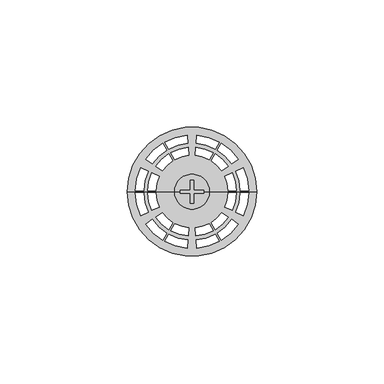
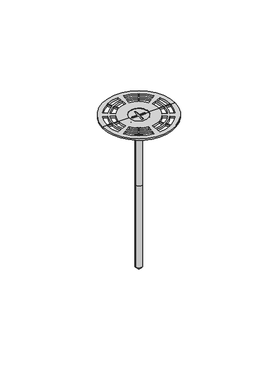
"""IFC4 building model written with IfcOpenShell, lengths in millimetres: proxy geometry, Durabond Generic Model Screw w Standard Wall Plate : Durabond Generic Model Screw w Standard Wall Plate."""

from ifc_helpers import new_model, si_unit, point, frame, origin, place, context, project, spatial, polyline, circle_curve, ellipse_curve, trimmed, source, transform, mapped, element, save
from ifc_brep_helpers import plane_surface, cylinder_surface, revolved_surface, advanced_brep


def generic_models_8c792c9c(model_context):
    return source(origin(), model_context, "Body", "AdvancedBrep", [
        advanced_brep(
        [(6.8713781, 0.0, 0.79375), (-6.8713781, 0.0, 0.79375), (-4.7625, 0.0, 0.79375), (-4.7625, 0.79375, 0.79375), (-0.79375, 0.79375, 0.79375), (-0.79375, 4.7625, 0.79375), (0.79375, 4.7625, 0.79375), (0.79375, 0.79375, 0.79375), (4.7625, 0.79375, 0.79375), (4.7625, 0.0, 0.79375), (4.7625, -0.79375, 0.79375), (0.79375, -0.79375, 0.79375), (0.79375, -4.7625, 0.79375), (-0.79375, -4.7625, 0.79375), (-0.79375, -0.79375, 0.79375), (-4.7625, -0.79375, 0.79375), (6.8713781, 0.0, -1.0661219), (-6.8713781, 0.0, -1.0661219), (2.38125, 0.0, -5.55625), (-2.38125, 0.0, -5.55625), (2.38125, 0.0, -50.00625), (-2.38125, 0.0, -50.00625), (-0.79375, -4.7625, 0.0), (0.79375, -4.7625, 0.0), (0.79375, -0.79375, 0.0), (4.7625, -0.79375, 0.0), (4.7625, 0.79375, 0.0), (0.79375, 0.79375, 0.0), (0.79375, 4.7625, 0.0), (-0.79375, 4.7625, 0.0), (-0.79375, 0.79375, 0.0), (-4.7625, 0.79375, 0.0), (-4.7625, -0.79375, 0.0), (-0.79375, -0.79375, 0.0), (0.0, 0.0, -50.00625)],
        [
            (0, 1, circle_curve(frame((0.0, 0.0, 0.79375), z_axis=(0.0, 0.0, 1.0), x_axis=(-1.0, 0.0, 0.0)), 6.8713781)),
            (1, 2),
            (2, 3),
            (3, 4),
            (4, 5),
            (5, 6),
            (6, 7),
            (7, 8),
            (8, 9),
            (9, 0),
            (1, 0, circle_curve(frame((0.0, 0.0, 0.79375), z_axis=(0.0, 0.0, 1.0), x_axis=(-1.0, 0.0, 0.0)), 6.8713781)),
            (9, 10),
            (10, 11),
            (11, 12),
            (12, 13),
            (13, 14),
            (14, 15),
            (15, 2),
            (0, 16),
            (16, 17, circle_curve(frame((0.0, 0.0, -1.0661219), z_axis=(0.0, 0.0, 1.0), x_axis=(-1.0, 0.0, 0.0)), 6.8713781)),
            (17, 1),
            (17, 16, circle_curve(frame((0.0, 0.0, -1.0661219), z_axis=(0.0, 0.0, 1.0), x_axis=(-1.0, 0.0, 0.0)), 6.8713781)),
            (16, 18),
            (18, 19, circle_curve(frame((0.0, 0.0, -5.55625), z_axis=(0.0, 0.0, 1.0), x_axis=(-1.0, 0.0, 0.0)), 2.38125)),
            (19, 17),
            (19, 18, circle_curve(frame((0.0, 0.0, -5.55625), z_axis=(0.0, 0.0, 1.0), x_axis=(-1.0, 0.0, 0.0)), 2.38125)),
            (18, 20),
            (20, 21, circle_curve(frame((0.0, 0.0, -50.00625), z_axis=(0.0, 0.0, 1.0), x_axis=(-1.0, 0.0, 0.0)), 2.38125)),
            (21, 19),
            (21, 20, circle_curve(frame((0.0, 0.0, -50.00625), z_axis=(0.0, 0.0, 1.0), x_axis=(-1.0, 0.0, 0.0)), 2.38125)),
            (22, 23),
            (23, 24),
            (24, 25),
            (25, 26),
            (26, 27),
            (27, 28),
            (28, 29),
            (29, 30),
            (30, 31),
            (31, 32),
            (32, 33),
            (33, 22),
            (22, 13),
            (12, 23),
            (11, 24),
            (10, 25),
            (8, 26),
            (7, 27),
            (6, 28),
            (5, 29),
            (4, 30),
            (3, 31),
            (15, 32),
            (14, 33),
            (20, 34),
            (34, 21),
        ],
        [
            plane_surface(frame((0.0, 0.0, 0.79375), z_axis=(0.0, 0.0, 1.0), x_axis=(-1.0, 0.0, 0.0))),
            cylinder_surface(frame((0.0, 0.0, 64.29375), z_axis=(0.0, 0.0, -1.0), x_axis=(-1.0, 0.0, 0.0)), 6.8713781),
            revolved_surface(polyline([(-6.8713781, 0.0, -1.0661219), (-2.38125, 0.0, -5.55625)]), (0.0, 0.0, 64.29375), (0.0, 0.0, -1.0)),
            cylinder_surface(frame((0.0, 0.0, 64.29375), z_axis=(0.0, 0.0, -1.0), x_axis=(-1.0, 0.0, 0.0)), 2.38125),
            plane_surface(frame((6.8713781, -4.7625, 0.0), z_axis=(0.0, 0.0, 1.0), x_axis=(-1.0, 0.0, 0.0))),
            plane_surface(frame((-0.79375, -4.7625, 0.79375), z_axis=(0.0, 1.0, 0.0), x_axis=(0.0, 0.0, -1.0))),
            plane_surface(frame((0.79375, -4.7625, 0.79375), z_axis=(-1.0, 0.0, 0.0), x_axis=(0.0, 0.0, -1.0))),
            plane_surface(frame((0.79375, -0.79375, 0.79375), z_axis=(0.0, 1.0, 0.0), x_axis=(0.0, 0.0, -1.0))),
            plane_surface(frame((4.7625, -0.79375, 0.79375), z_axis=(-1.0, 0.0, 0.0), x_axis=(0.0, 0.0, -1.0))),
            plane_surface(frame((4.7625, 0.79375, 0.79375), z_axis=(0.0, -1.0, 0.0), x_axis=(0.0, 0.0, -1.0))),
            plane_surface(frame((0.79375, 0.79375, 0.79375), z_axis=(-1.0, 0.0, 0.0), x_axis=(0.0, 0.0, -1.0))),
            plane_surface(frame((0.79375, 4.7625, 0.79375), z_axis=(0.0, -1.0, 0.0), x_axis=(0.0, 0.0, -1.0))),
            plane_surface(frame((-0.79375, 4.7625, 0.79375), z_axis=(1.0, 0.0, 0.0), x_axis=(0.0, 0.0, -1.0))),
            plane_surface(frame((-0.79375, 0.79375, 0.79375), z_axis=(0.0, -1.0, 0.0), x_axis=(0.0, 0.0, -1.0))),
            plane_surface(frame((-4.7625, 0.79375, 0.79375), z_axis=(1.0, 0.0, 0.0), x_axis=(0.0, 0.0, -1.0))),
            plane_surface(frame((-4.7625, -0.79375, 0.79375), z_axis=(0.0, 1.0, 0.0), x_axis=(0.0, 0.0, -1.0))),
            plane_surface(frame((-0.79375, -0.79375, 0.79375), z_axis=(1.0, 0.0, 0.0), x_axis=(0.0, 0.0, -1.0))),
            plane_surface(frame((0.0, 0.0, -50.00625), z_axis=(0.0, 0.0, -1.0), x_axis=(-1.0, 0.0, 0.0))),
        ],
        [
            (0, [[1, 2, 3, 4, 5, 6, 7, 8, 9, 10]]),
            (0, [[11, -10, 12, 13, 14, 15, 16, 17, 18, -2]]),
            (1, [[-1, 19, 20, 21]]),
            (1, [[-11, -21, 22, -19]]),
            (2, [[-20, 23, 24, 25]]),
            (2, [[-22, -25, 26, -23]]),
            (3, [[-24, 27, 28, 29]]),
            (3, [[-26, -29, 30, -27]]),
            (4, [[31, 32, 33, 34, 35, 36, 37, 38, 39, 40, 41, 42]]),
            (5, [[-31, 43, -15, 44]]),
            (6, [[-32, -44, -14, 45]]),
            (7, [[-33, -45, -13, 46]]),
            (8, [[-34, -46, -12, -9, 47]]),
            (9, [[-35, -47, -8, 48]]),
            (10, [[-36, -48, -7, 49]]),
            (11, [[-37, -49, -6, 50]]),
            (12, [[-38, -50, -5, 51]]),
            (13, [[-39, -51, -4, 52]]),
            (14, [[-40, -52, -3, -18, 53]]),
            (15, [[-41, -53, -17, 54]]),
            (16, [[-42, -54, -16, -43]]),
            (17, [[-28, 55, 56]]),
            (17, [[-30, -56, -55]]),
        ],
    ),
        advanced_brep(
        [(0.0, 0.0, -113.50625), (-2.38125, 0.0, -111.125), (2.38125, 0.0, -111.125), (-2.38125, 0.0, -50.00625), (2.38125, 0.0, -50.00625), (0.0, 0.0, -50.00625)],
        [
            (0, 1),
            (1, 2, circle_curve(frame((0.0, 0.0, -111.125), z_axis=(0.0, 0.0, -1.0), x_axis=(-1.0, 0.0, 0.0)), 2.38125)),
            (2, 0),
            (2, 1, circle_curve(frame((0.0, 0.0, -111.125), z_axis=(0.0, 0.0, -1.0), x_axis=(-1.0, 0.0, 0.0)), 2.38125)),
            (1, 3),
            (3, 4, circle_curve(frame((0.0, 0.0, -50.00625), z_axis=(0.0, 0.0, -1.0), x_axis=(-1.0, 0.0, 0.0)), 2.38125)),
            (4, 2),
            (4, 3, circle_curve(frame((0.0, 0.0, -50.00625), z_axis=(0.0, 0.0, -1.0), x_axis=(-1.0, 0.0, 0.0)), 2.38125)),
            (3, 5),
            (5, 4),
        ],
        [
            revolved_surface(polyline([(-2.38125, 0.0, -111.125), (0.0, 0.0, -113.50625)]), (0.0, 0.0, 64.29375), (0.0, 0.0, -1.0)),
            cylinder_surface(frame((0.0, 0.0, 64.29375), z_axis=(0.0, 0.0, -1.0), x_axis=(-1.0, 0.0, 0.0)), 2.38125),
            plane_surface(frame((0.0, 0.0, -50.00625), z_axis=(0.0, 0.0, 1.0), x_axis=(-1.0, 0.0, 0.0))),
        ],
        [
            (0, [[1, 2, 3]]),
            (0, [[-3, 4, -1]]),
            (1, [[-2, 5, 6, 7]]),
            (1, [[-4, -7, 8, -5]]),
            (2, [[-6, 9, 10]]),
            (2, [[-8, -10, -9]]),
        ],
    ),
        advanced_brep(
        [(6.8713781, 0.0, 1.190625), (-6.8713781, 0.0, 1.190625), (-6.8713781, 0.0, -1.0661219), (6.8713781, 0.0, -1.0661219), (25.4, 0.0, 1.190625), (-25.4, 0.0, 1.190625), (-20.1426906, 9.3926909, 1.190625), (-17.2651633, 8.0508779, 1.190625), (-19.0458654, 0.396875, 1.190625), (-22.2214562, 0.396875, 1.190625), (-15.8263997, 7.3799714, 1.190625), (-12.9488725, 6.0381584, 1.190625), (-14.2819868, 0.396875, 1.190625), (-17.4579895, 0.396875, 1.190625), (20.1426906, 9.3926909, 1.190625), (22.2214562, 0.396875, 1.190625), (19.0458654, 0.396875, 1.190625), (17.2651633, 8.0508779, 1.190625), (15.8263997, 7.3799714, 1.190625), (17.4579895, 0.396875, 1.190625), (14.2819868, 0.396875, 1.190625), (12.9488725, 6.0381584, 1.190625), (-1.9370364, 22.1404272, 1.190625), (-1.6603169, 18.977509, 1.190625), (-9.1792289, 16.6926408, 1.190625), (-10.7670243, 19.4427831, 1.190625), (-1.5219572, 17.3960499, 1.190625), (-1.2452377, 14.2331317, 1.190625), (-6.7972896, 12.5670009, 1.190625), (-8.3852909, 15.3174999, 1.190625), (-18.2056542, 12.7477363, 1.190625), (-11.4544319, 19.0459081, 1.190625), (-9.8666366, 16.2957658, 1.190625), (-15.6048464, 10.9266311, 1.190625), (-14.3044426, 10.0160785, 1.190625), (-9.0726986, 14.9206249, 1.190625), (-7.4846972, 12.1701259, 1.190625), (-11.7036348, 8.1949733, 1.190625), (1.9370364, 22.1404272, 1.190625), (10.7670243, 19.4427831, 1.190625), (9.1792289, 16.6926408, 1.190625), (1.6603169, 18.977509, 1.190625), (1.5219572, 17.3960499, 1.190625), (8.3852909, 15.3174999, 1.190625), (6.7972896, 12.5670009, 1.190625), (1.2452377, 14.2331317, 1.190625), (18.2056542, 12.7477363, 1.190625), (15.6048464, 10.9266311, 1.190625), (9.8666366, 16.2957658, 1.190625), (11.4544319, 19.0459081, 1.190625), (14.3044426, 10.0160785, 1.190625), (11.7036348, 8.1949733, 1.190625), (7.4846972, 12.1701259, 1.190625), (9.0726986, 14.9206249, 1.190625), (-20.1426906, -9.3926909, 1.190625), (-22.2214562, -0.396875, 1.190625), (-19.0458654, -0.396875, 1.190625), (-17.2651633, -8.0508779, 1.190625), (-15.8263997, -7.3799714, 1.190625), (-17.4579895, -0.396875, 1.190625), (-14.2819868, -0.396875, 1.190625), (-12.9488725, -6.0381584, 1.190625), (20.1426906, -9.3926909, 1.190625), (17.2651633, -8.0508779, 1.190625), (19.0458654, -0.396875, 1.190625), (22.2214562, -0.396875, 1.190625), (15.8263997, -7.3799714, 1.190625), (12.9488725, -6.0381584, 1.190625), (14.2819868, -0.396875, 1.190625), (17.4579895, -0.396875, 1.190625), (18.2056542, -12.7477363, 1.190625), (11.4544319, -19.0459081, 1.190625), (9.8666366, -16.2957658, 1.190625), (15.6048464, -10.9266311, 1.190625), (14.3044426, -10.0160785, 1.190625), (9.0726986, -14.9206249, 1.190625), (7.4846972, -12.1701259, 1.190625), (11.7036348, -8.1949733, 1.190625), (1.9370364, -22.1404272, 1.190625), (1.6603169, -18.977509, 1.190625), (9.1792289, -16.6926408, 1.190625), (10.7670243, -19.4427831, 1.190625), (1.5219572, -17.3960499, 1.190625), (1.2452377, -14.2331317, 1.190625), (6.7972896, -12.5670009, 1.190625), (8.3852909, -15.3174999, 1.190625), (-18.2056542, -12.7477363, 1.190625), (-15.6048464, -10.9266311, 1.190625), (-9.8666366, -16.2957658, 1.190625), (-11.4544319, -19.0459081, 1.190625), (-14.3044426, -10.0160785, 1.190625), (-11.7036348, -8.1949733, 1.190625), (-7.4846972, -12.1701259, 1.190625), (-9.0726986, -14.9206249, 1.190625), (-1.9370364, -22.1404272, 1.190625), (-10.7670243, -19.4427831, 1.190625), (-9.1792289, -16.6926408, 1.190625), (-1.6603169, -18.977509, 1.190625), (-1.5219572, -17.3960499, 1.190625), (-8.3852909, -15.3174999, 1.190625), (-6.7972896, -12.5670009, 1.190625), (-1.2452377, -14.2331317, 1.190625), (25.4, 0.0, 0.0), (-25.4, 0.0, 0.0), (13.9306805, 0.0, 0.0), (-13.9306805, 0.0, 0.0), (-17.2651633, 8.0508779, 0.0), (-20.1426906, 9.3926909, 0.0), (-22.2214562, 0.396875, 0.0), (-19.0458654, 0.396875, 0.0), (-12.9488725, 6.0381584, 0.0), (-15.8263997, 7.3799714, 0.0), (-17.4579895, 0.396875, 0.0), (-14.2819868, 0.396875, 0.0), (22.2214562, 0.396875, 0.0), (20.1426906, 9.3926909, 0.0), (17.2651633, 8.0508779, 0.0), (19.0458654, 0.396875, 0.0), (17.4579895, 0.396875, 0.0), (15.8263997, 7.3799714, 0.0), (12.9488725, 6.0381584, 0.0), (14.2819868, 0.396875, 0.0), (-1.6603169, 18.977509, 0.0), (-1.9370364, 22.1404272, 0.0), (-10.7670243, 19.4427831, 0.0), (-9.1792289, 16.6926408, 0.0), (-1.2452377, 14.2331317, 0.0), (-1.5219572, 17.3960499, 0.0), (-8.3852909, 15.3174999, 0.0), (-6.7972896, 12.5670009, 0.0), (-11.4544319, 19.0459081, 0.0), (-18.2056542, 12.7477363, 0.0), (-15.6048464, 10.9266311, 0.0), (-9.8666366, 16.2957658, 0.0), (-9.0726986, 14.9206249, 0.0), (-14.3044426, 10.0160785, 0.0), (-11.7036348, 8.1949733, 0.0), (-7.4846972, 12.1701259, 0.0), (10.7670243, 19.4427831, 0.0), (1.9370364, 22.1404272, 0.0), (1.6603169, 18.977509, 0.0), (9.1792289, 16.6926408, 0.0), (8.3852909, 15.3174999, 0.0), (1.5219572, 17.3960499, 0.0), (1.2452377, 14.2331317, 0.0), (6.7972896, 12.5670009, 0.0), (15.6048464, 10.9266311, 0.0), (18.2056542, 12.7477363, 0.0), (11.4544319, 19.0459081, 0.0), (9.8666366, 16.2957658, 0.0), (11.7036348, 8.1949733, 0.0), (14.3044426, 10.0160785, 0.0), (9.0726986, 14.9206249, 0.0), (7.4846972, 12.1701259, 0.0), (-22.2214562, -0.396875, 0.0), (-20.1426906, -9.3926909, 0.0), (-17.2651633, -8.0508779, 0.0), (-19.0458654, -0.396875, 0.0), (-17.4579895, -0.396875, 0.0), (-15.8263997, -7.3799714, 0.0), (-12.9488725, -6.0381584, 0.0), (-14.2819868, -0.396875, 0.0), (17.2651633, -8.0508779, 0.0), (20.1426906, -9.3926909, 0.0), (22.2214562, -0.396875, 0.0), (19.0458654, -0.396875, 0.0), (12.9488725, -6.0381584, 0.0), (15.8263997, -7.3799714, 0.0), (17.4579895, -0.396875, 0.0), (14.2819868, -0.396875, 0.0), (11.4544319, -19.0459081, 0.0), (18.2056542, -12.7477363, 0.0), (15.6048464, -10.9266311, 0.0), (9.8666366, -16.2957658, 0.0), (9.0726986, -14.9206249, 0.0), (14.3044426, -10.0160785, 0.0), (11.7036348, -8.1949733, 0.0), (7.4846972, -12.1701259, 0.0), (1.6603169, -18.977509, 0.0), (1.9370364, -22.1404272, 0.0), (10.7670243, -19.4427831, 0.0), (9.1792289, -16.6926408, 0.0), (1.2452377, -14.2331317, 0.0), (1.5219572, -17.3960499, 0.0), (8.3852909, -15.3174999, 0.0), (6.7972896, -12.5670009, 0.0), (-15.6048464, -10.9266311, 0.0), (-18.2056542, -12.7477363, 0.0), (-11.4544319, -19.0459081, 0.0), (-9.8666366, -16.2957658, 0.0), (-11.7036348, -8.1949733, 0.0), (-14.3044426, -10.0160785, 0.0), (-9.0726986, -14.9206249, 0.0), (-7.4846972, -12.1701259, 0.0), (-10.7670243, -19.4427831, 0.0), (-1.9370364, -22.1404272, 0.0), (-1.6603169, -18.977509, 0.0), (-9.1792289, -16.6926408, 0.0), (-8.3852909, -15.3174999, 0.0), (-1.5219572, -17.3960499, 0.0), (-1.2452377, -14.2331317, 0.0), (-6.7972896, -12.5670009, 0.0), (8.4746148, 0.0, -6.2461508), (-8.4746148, 0.0, -6.2461508), (-9.3350004, 0.0, -3.4087638), (9.3350004, 0.0, -3.4087638), (2.38125, 0.0, -12.3395156), (-2.38125, 0.0, -12.3395156), (2.38125, 0.0, -5.55625), (-2.38125, 0.0, -5.55625)],
        [
            (0, 1, circle_curve(frame((0.0, 0.0, 1.190625), z_axis=(0.0, 0.0, 1.0), x_axis=(-1.0, 0.0, 0.0)), 6.8713781)),
            (1, 2),
            (2, 3, circle_curve(frame((0.0, 0.0, -1.0661219), z_axis=(0.0, 0.0, -1.0), x_axis=(-1.0, 0.0, 0.0)), 6.8713781)),
            (3, 0),
            (1, 0, circle_curve(frame((0.0, 0.0, 1.190625), z_axis=(0.0, 0.0, 1.0), x_axis=(-1.0, 0.0, 0.0)), 6.8713781)),
            (3, 2, circle_curve(frame((0.0, 0.0, -1.0661219), z_axis=(0.0, 0.0, -1.0), x_axis=(-1.0, 0.0, 0.0)), 6.8713781)),
            (0, 4),
            (4, 5, circle_curve(frame((0.0, 0.0, 1.190625), z_axis=(0.0, 0.0, 1.0), x_axis=(-1.0, 0.0, 0.0)), 25.4)),
            (5, 1),
            (6, 7),
            (7, 8, circle_curve(frame((0.0, 0.0, 1.190625), z_axis=(0.0, 0.0, 1.0), x_axis=(0.0, -1.0, 0.0)), 19.05)),
            (8, 9),
            (9, 6, circle_curve(frame((0.0, 0.0, 1.190625), z_axis=(0.0, 0.0, -1.0), x_axis=(0.0, -1.0, 0.0)), 22.225)),
            (10, 11),
            (11, 12, circle_curve(frame((0.0, 0.0, 1.190625), z_axis=(0.0, 0.0, 1.0), x_axis=(0.0, -1.0, 0.0)), 14.2875)),
            (12, 13),
            (13, 10, circle_curve(frame((0.0, 0.0, 1.190625), z_axis=(0.0, 0.0, -1.0), x_axis=(0.0, -1.0, 0.0)), 17.4625)),
            (14, 15, circle_curve(frame((0.0, 0.0, 1.190625), z_axis=(0.0, 0.0, -1.0), x_axis=(0.0, -1.0, 0.0)), 22.225)),
            (15, 16),
            (16, 17, circle_curve(frame((0.0, 0.0, 1.190625), z_axis=(0.0, 0.0, 1.0), x_axis=(0.0, -1.0, 0.0)), 19.05)),
            (17, 14),
            (18, 19, circle_curve(frame((0.0, 0.0, 1.190625), z_axis=(0.0, 0.0, -1.0), x_axis=(0.0, -1.0, 0.0)), 17.4625)),
            (19, 20),
            (20, 21, circle_curve(frame((0.0, 0.0, 1.190625), z_axis=(0.0, 0.0, 1.0), x_axis=(0.0, -1.0, 0.0)), 14.2875)),
            (21, 18),
            (22, 23),
            (23, 24, circle_curve(frame((0.0, 0.0, 1.190625), z_axis=(0.0, 0.0, 1.0), x_axis=(-0.8660254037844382, -0.5000000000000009, 0.0)), 19.05)),
            (24, 25),
            (25, 22, circle_curve(frame((0.0, 0.0, 1.190625), z_axis=(0.0, 0.0, -1.0), x_axis=(-0.8660254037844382, -0.5000000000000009, 0.0)), 22.225)),
            (26, 27),
            (27, 28, circle_curve(frame((0.0, 0.0, 1.190625), z_axis=(0.0, 0.0, 1.0), x_axis=(-0.8660254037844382, -0.5000000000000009, 0.0)), 14.2875)),
            (28, 29),
            (29, 26, circle_curve(frame((0.0, 0.0, 1.190625), z_axis=(0.0, 0.0, -1.0), x_axis=(-0.8660254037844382, -0.5000000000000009, 0.0)), 17.4625)),
            (30, 31, circle_curve(frame((0.0, 0.0, 1.190625), z_axis=(0.0, 0.0, -1.0), x_axis=(0.8660254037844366, 0.5000000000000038, 0.0)), 22.225)),
            (31, 32),
            (32, 33, circle_curve(frame((0.0, 0.0, 1.190625), z_axis=(0.0, 0.0, 1.0), x_axis=(0.8660254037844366, 0.5000000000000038, 0.0)), 19.05)),
            (33, 30),
            (34, 35, circle_curve(frame((0.0, 0.0, 1.190625), z_axis=(0.0, 0.0, -1.0), x_axis=(0.8660254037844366, 0.5000000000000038, 0.0)), 17.4625)),
            (35, 36),
            (36, 37, circle_curve(frame((0.0, 0.0, 1.190625), z_axis=(0.0, 0.0, 1.0), x_axis=(0.8660254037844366, 0.5000000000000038, 0.0)), 14.2875)),
            (37, 34),
            (38, 39, circle_curve(frame((0.0, 0.0, 1.190625), z_axis=(0.0, 0.0, -1.0), x_axis=(0.8660254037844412, -0.4999999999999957, 0.0)), 22.225)),
            (39, 40),
            (40, 41, circle_curve(frame((0.0, 0.0, 1.190625), z_axis=(0.0, 0.0, 1.0), x_axis=(0.8660254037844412, -0.4999999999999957, 0.0)), 19.05)),
            (41, 38),
            (42, 43, circle_curve(frame((0.0, 0.0, 1.190625), z_axis=(0.0, 0.0, -1.0), x_axis=(0.8660254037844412, -0.4999999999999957, 0.0)), 17.4625)),
            (43, 44),
            (44, 45, circle_curve(frame((0.0, 0.0, 1.190625), z_axis=(0.0, 0.0, 1.0), x_axis=(0.8660254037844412, -0.4999999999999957, 0.0)), 14.2875)),
            (45, 42),
            (46, 47),
            (47, 48, circle_curve(frame((0.0, 0.0, 1.190625), z_axis=(0.0, 0.0, 1.0), x_axis=(-0.8660254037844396, 0.49999999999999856, 0.0)), 19.05)),
            (48, 49),
            (49, 46, circle_curve(frame((0.0, 0.0, 1.190625), z_axis=(0.0, 0.0, -1.0), x_axis=(-0.8660254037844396, 0.49999999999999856, 0.0)), 22.225)),
            (50, 51),
            (51, 52, circle_curve(frame((0.0, 0.0, 1.190625), z_axis=(0.0, 0.0, 1.0), x_axis=(-0.8660254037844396, 0.49999999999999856, 0.0)), 14.2875)),
            (52, 53),
            (53, 50, circle_curve(frame((0.0, 0.0, 1.190625), z_axis=(0.0, 0.0, -1.0), x_axis=(-0.8660254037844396, 0.49999999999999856, 0.0)), 17.4625)),
            (5, 4, circle_curve(frame((0.0, 0.0, 1.190625), z_axis=(0.0, 0.0, 1.0), x_axis=(-1.0, 0.0, 0.0)), 25.4)),
            (54, 55, circle_curve(frame((0.0, 0.0, 1.190625), z_axis=(0.0, 0.0, -1.0), x_axis=(0.0, 1.0, 0.0)), 22.225)),
            (55, 56),
            (56, 57, circle_curve(frame((0.0, 0.0, 1.190625), z_axis=(0.0, 0.0, 1.0), x_axis=(0.0, 1.0, 0.0)), 19.05)),
            (57, 54),
            (58, 59, circle_curve(frame((0.0, 0.0, 1.190625), z_axis=(0.0, 0.0, -1.0), x_axis=(0.0, 1.0, 0.0)), 17.4625)),
            (59, 60),
            (60, 61, circle_curve(frame((0.0, 0.0, 1.190625), z_axis=(0.0, 0.0, 1.0), x_axis=(0.0, 1.0, 0.0)), 14.2875)),
            (61, 58),
            (62, 63),
            (63, 64, circle_curve(frame((0.0, 0.0, 1.190625), z_axis=(0.0, 0.0, 1.0), x_axis=(0.0, 1.0, 0.0)), 19.05)),
            (64, 65),
            (65, 62, circle_curve(frame((0.0, 0.0, 1.190625), z_axis=(0.0, 0.0, -1.0), x_axis=(0.0, 1.0, 0.0)), 22.225)),
            (66, 67),
            (67, 68, circle_curve(frame((0.0, 0.0, 1.190625), z_axis=(0.0, 0.0, 1.0), x_axis=(0.0, 1.0, 0.0)), 14.2875)),
            (68, 69),
            (69, 66, circle_curve(frame((0.0, 0.0, 1.190625), z_axis=(0.0, 0.0, -1.0), x_axis=(0.0, 1.0, 0.0)), 17.4625)),
            (70, 71, circle_curve(frame((0.0, 0.0, 1.190625), z_axis=(0.0, 0.0, -1.0), x_axis=(-0.8660254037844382, -0.5000000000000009, 0.0)), 22.225)),
            (71, 72),
            (72, 73, circle_curve(frame((0.0, 0.0, 1.190625), z_axis=(0.0, 0.0, 1.0), x_axis=(-0.8660254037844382, -0.5000000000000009, 0.0)), 19.05)),
            (73, 70),
            (74, 75, circle_curve(frame((0.0, 0.0, 1.190625), z_axis=(0.0, 0.0, -1.0), x_axis=(-0.8660254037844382, -0.5000000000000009, 0.0)), 17.4625)),
            (75, 76),
            (76, 77, circle_curve(frame((0.0, 0.0, 1.190625), z_axis=(0.0, 0.0, 1.0), x_axis=(-0.8660254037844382, -0.5000000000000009, 0.0)), 14.2875)),
            (77, 74),
            (78, 79),
            (79, 80, circle_curve(frame((0.0, 0.0, 1.190625), z_axis=(0.0, 0.0, 1.0), x_axis=(0.8660254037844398, 0.4999999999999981, 0.0)), 19.05)),
            (80, 81),
            (81, 78, circle_curve(frame((0.0, 0.0, 1.190625), z_axis=(0.0, 0.0, -1.0), x_axis=(0.8660254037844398, 0.4999999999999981, 0.0)), 22.225)),
            (82, 83),
            (83, 84, circle_curve(frame((0.0, 0.0, 1.190625), z_axis=(0.0, 0.0, 1.0), x_axis=(0.8660254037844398, 0.4999999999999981, 0.0)), 14.2875)),
            (84, 85),
            (85, 82, circle_curve(frame((0.0, 0.0, 1.190625), z_axis=(0.0, 0.0, -1.0), x_axis=(0.8660254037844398, 0.4999999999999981, 0.0)), 17.4625)),
            (86, 87),
            (87, 88, circle_curve(frame((0.0, 0.0, 1.190625), z_axis=(0.0, 0.0, 1.0), x_axis=(0.8660254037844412, -0.4999999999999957, 0.0)), 19.05)),
            (88, 89),
            (89, 86, circle_curve(frame((0.0, 0.0, 1.190625), z_axis=(0.0, 0.0, -1.0), x_axis=(0.8660254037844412, -0.4999999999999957, 0.0)), 22.225)),
            (90, 91),
            (91, 92, circle_curve(frame((0.0, 0.0, 1.190625), z_axis=(0.0, 0.0, 1.0), x_axis=(0.8660254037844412, -0.4999999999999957, 0.0)), 14.2875)),
            (92, 93),
            (93, 90, circle_curve(frame((0.0, 0.0, 1.190625), z_axis=(0.0, 0.0, -1.0), x_axis=(0.8660254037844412, -0.4999999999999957, 0.0)), 17.4625)),
            (94, 95, circle_curve(frame((0.0, 0.0, 1.190625), z_axis=(0.0, 0.0, -1.0), x_axis=(-0.8660254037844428, 0.49999999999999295, 0.0)), 22.225)),
            (95, 96),
            (96, 97, circle_curve(frame((0.0, 0.0, 1.190625), z_axis=(0.0, 0.0, 1.0), x_axis=(-0.8660254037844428, 0.49999999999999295, 0.0)), 19.05)),
            (97, 94),
            (98, 99, circle_curve(frame((0.0, 0.0, 1.190625), z_axis=(0.0, 0.0, -1.0), x_axis=(-0.8660254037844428, 0.49999999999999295, 0.0)), 17.4625)),
            (99, 100),
            (100, 101, circle_curve(frame((0.0, 0.0, 1.190625), z_axis=(0.0, 0.0, 1.0), x_axis=(-0.8660254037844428, 0.49999999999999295, 0.0)), 14.2875)),
            (101, 98),
            (4, 102),
            (102, 103, circle_curve(frame((0.0, 0.0, 0.0), z_axis=(0.0, 0.0, 1.0), x_axis=(-1.0, 0.0, 0.0)), 25.4)),
            (103, 5),
            (103, 102, circle_curve(frame((0.0, 0.0, 0.0), z_axis=(0.0, 0.0, 1.0), x_axis=(-1.0, 0.0, 0.0)), 25.4)),
            (102, 104),
            (104, 105, circle_curve(frame((0.0, 0.0, 0.0), z_axis=(0.0, 0.0, 1.0), x_axis=(-1.0, 0.0, 0.0)), 13.9306805)),
            (105, 103),
            (106, 107),
            (107, 108, circle_curve(frame((0.0, 0.0, 0.0), z_axis=(0.0, 0.0, 1.0), x_axis=(0.0, -1.0, 0.0)), 22.225)),
            (108, 109),
            (109, 106, circle_curve(frame((0.0, 0.0, 0.0), z_axis=(0.0, 0.0, -1.0), x_axis=(0.0, -1.0, 0.0)), 19.05)),
            (110, 111),
            (111, 112, circle_curve(frame((0.0, 0.0, 0.0), z_axis=(0.0, 0.0, 1.0), x_axis=(0.0, -1.0, 0.0)), 17.4625)),
            (112, 113),
            (113, 110, circle_curve(frame((0.0, 0.0, 0.0), z_axis=(0.0, 0.0, -1.0), x_axis=(0.0, -1.0, 0.0)), 14.2875)),
            (114, 115, circle_curve(frame((0.0, 0.0, 0.0), z_axis=(0.0, 0.0, 1.0), x_axis=(0.0, -1.0, 0.0)), 22.225)),
            (115, 116),
            (116, 117, circle_curve(frame((0.0, 0.0, 0.0), z_axis=(0.0, 0.0, -1.0), x_axis=(0.0, -1.0, 0.0)), 19.05)),
            (117, 114),
            (118, 119, circle_curve(frame((0.0, 0.0, 0.0), z_axis=(0.0, 0.0, 1.0), x_axis=(0.0, -1.0, 0.0)), 17.4625)),
            (119, 120),
            (120, 121, circle_curve(frame((0.0, 0.0, 0.0), z_axis=(0.0, 0.0, -1.0), x_axis=(0.0, -1.0, 0.0)), 14.2875)),
            (121, 118),
            (122, 123),
            (123, 124, circle_curve(frame((0.0, 0.0, 0.0), z_axis=(0.0, 0.0, 1.0), x_axis=(-0.8660254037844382, -0.5000000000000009, 0.0)), 22.225)),
            (124, 125),
            (125, 122, circle_curve(frame((0.0, 0.0, 0.0), z_axis=(0.0, 0.0, -1.0), x_axis=(-0.8660254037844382, -0.5000000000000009, 0.0)), 19.05)),
            (126, 127),
            (127, 128, circle_curve(frame((0.0, 0.0, 0.0), z_axis=(0.0, 0.0, 1.0), x_axis=(-0.8660254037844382, -0.5000000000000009, 0.0)), 17.4625)),
            (128, 129),
            (129, 126, circle_curve(frame((0.0, 0.0, 0.0), z_axis=(0.0, 0.0, -1.0), x_axis=(-0.8660254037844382, -0.5000000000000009, 0.0)), 14.2875)),
            (130, 131, circle_curve(frame((0.0, 0.0, 0.0), z_axis=(0.0, 0.0, 1.0), x_axis=(0.8660254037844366, 0.5000000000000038, 0.0)), 22.225)),
            (131, 132),
            (132, 133, circle_curve(frame((0.0, 0.0, 0.0), z_axis=(0.0, 0.0, -1.0), x_axis=(0.8660254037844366, 0.5000000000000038, 0.0)), 19.05)),
            (133, 130),
            (134, 135, circle_curve(frame((0.0, 0.0, 0.0), z_axis=(0.0, 0.0, 1.0), x_axis=(0.8660254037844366, 0.5000000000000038, 0.0)), 17.4625)),
            (135, 136),
            (136, 137, circle_curve(frame((0.0, 0.0, 0.0), z_axis=(0.0, 0.0, -1.0), x_axis=(0.8660254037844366, 0.5000000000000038, 0.0)), 14.2875)),
            (137, 134),
            (138, 139, circle_curve(frame((0.0, 0.0, 0.0), z_axis=(0.0, 0.0, 1.0), x_axis=(0.8660254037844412, -0.4999999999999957, 0.0)), 22.225)),
            (139, 140),
            (140, 141, circle_curve(frame((0.0, 0.0, 0.0), z_axis=(0.0, 0.0, -1.0), x_axis=(0.8660254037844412, -0.4999999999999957, 0.0)), 19.05)),
            (141, 138),
            (142, 143, circle_curve(frame((0.0, 0.0, 0.0), z_axis=(0.0, 0.0, 1.0), x_axis=(0.8660254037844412, -0.4999999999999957, 0.0)), 17.4625)),
            (143, 144),
            (144, 145, circle_curve(frame((0.0, 0.0, 0.0), z_axis=(0.0, 0.0, -1.0), x_axis=(0.8660254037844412, -0.4999999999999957, 0.0)), 14.2875)),
            (145, 142),
            (146, 147),
            (147, 148, circle_curve(frame((0.0, 0.0, 0.0), z_axis=(0.0, 0.0, 1.0), x_axis=(-0.8660254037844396, 0.49999999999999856, 0.0)), 22.225)),
            (148, 149),
            (149, 146, circle_curve(frame((0.0, 0.0, 0.0), z_axis=(0.0, 0.0, -1.0), x_axis=(-0.8660254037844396, 0.49999999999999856, 0.0)), 19.05)),
            (150, 151),
            (151, 152, circle_curve(frame((0.0, 0.0, 0.0), z_axis=(0.0, 0.0, 1.0), x_axis=(-0.8660254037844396, 0.49999999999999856, 0.0)), 17.4625)),
            (152, 153),
            (153, 150, circle_curve(frame((0.0, 0.0, 0.0), z_axis=(0.0, 0.0, -1.0), x_axis=(-0.8660254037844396, 0.49999999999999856, 0.0)), 14.2875)),
            (105, 104, circle_curve(frame((0.0, 0.0, 0.0), z_axis=(0.0, 0.0, 1.0), x_axis=(-1.0, 0.0, 0.0)), 13.9306805)),
            (154, 155, circle_curve(frame((0.0, 0.0, 0.0), z_axis=(0.0, 0.0, 1.0), x_axis=(0.0, 1.0, 0.0)), 22.225)),
            (155, 156),
            (156, 157, circle_curve(frame((0.0, 0.0, 0.0), z_axis=(0.0, 0.0, -1.0), x_axis=(0.0, 1.0, 0.0)), 19.05)),
            (157, 154),
            (158, 159, circle_curve(frame((0.0, 0.0, 0.0), z_axis=(0.0, 0.0, 1.0), x_axis=(0.0, 1.0, 0.0)), 17.4625)),
            (159, 160),
            (160, 161, circle_curve(frame((0.0, 0.0, 0.0), z_axis=(0.0, 0.0, -1.0), x_axis=(0.0, 1.0, 0.0)), 14.2875)),
            (161, 158),
            (162, 163),
            (163, 164, circle_curve(frame((0.0, 0.0, 0.0), z_axis=(0.0, 0.0, 1.0), x_axis=(0.0, 1.0, 0.0)), 22.225)),
            (164, 165),
            (165, 162, circle_curve(frame((0.0, 0.0, 0.0), z_axis=(0.0, 0.0, -1.0), x_axis=(0.0, 1.0, 0.0)), 19.05)),
            (166, 167),
            (167, 168, circle_curve(frame((0.0, 0.0, 0.0), z_axis=(0.0, 0.0, 1.0), x_axis=(0.0, 1.0, 0.0)), 17.4625)),
            (168, 169),
            (169, 166, circle_curve(frame((0.0, 0.0, 0.0), z_axis=(0.0, 0.0, -1.0), x_axis=(0.0, 1.0, 0.0)), 14.2875)),
            (170, 171, circle_curve(frame((0.0, 0.0, 0.0), z_axis=(0.0, 0.0, 1.0), x_axis=(-0.8660254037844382, -0.5000000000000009, 0.0)), 22.225)),
            (171, 172),
            (172, 173, circle_curve(frame((0.0, 0.0, 0.0), z_axis=(0.0, 0.0, -1.0), x_axis=(-0.8660254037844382, -0.5000000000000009, 0.0)), 19.05)),
            (173, 170),
            (174, 175, circle_curve(frame((0.0, 0.0, 0.0), z_axis=(0.0, 0.0, 1.0), x_axis=(-0.8660254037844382, -0.5000000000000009, 0.0)), 17.4625)),
            (175, 176),
            (176, 177, circle_curve(frame((0.0, 0.0, 0.0), z_axis=(0.0, 0.0, -1.0), x_axis=(-0.8660254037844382, -0.5000000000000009, 0.0)), 14.2875)),
            (177, 174),
            (178, 179),
            (179, 180, circle_curve(frame((0.0, 0.0, 0.0), z_axis=(0.0, 0.0, 1.0), x_axis=(0.8660254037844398, 0.4999999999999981, 0.0)), 22.225)),
            (180, 181),
            (181, 178, circle_curve(frame((0.0, 0.0, 0.0), z_axis=(0.0, 0.0, -1.0), x_axis=(0.8660254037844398, 0.4999999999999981, 0.0)), 19.05)),
            (182, 183),
            (183, 184, circle_curve(frame((0.0, 0.0, 0.0), z_axis=(0.0, 0.0, 1.0), x_axis=(0.8660254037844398, 0.4999999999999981, 0.0)), 17.4625)),
            (184, 185),
            (185, 182, circle_curve(frame((0.0, 0.0, 0.0), z_axis=(0.0, 0.0, -1.0), x_axis=(0.8660254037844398, 0.4999999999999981, 0.0)), 14.2875)),
            (186, 187),
            (187, 188, circle_curve(frame((0.0, 0.0, 0.0), z_axis=(0.0, 0.0, 1.0), x_axis=(0.8660254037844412, -0.4999999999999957, 0.0)), 22.225)),
            (188, 189),
            (189, 186, circle_curve(frame((0.0, 0.0, 0.0), z_axis=(0.0, 0.0, -1.0), x_axis=(0.8660254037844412, -0.4999999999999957, 0.0)), 19.05)),
            (190, 191),
            (191, 192, circle_curve(frame((0.0, 0.0, 0.0), z_axis=(0.0, 0.0, 1.0), x_axis=(0.8660254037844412, -0.4999999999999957, 0.0)), 17.4625)),
            (192, 193),
            (193, 190, circle_curve(frame((0.0, 0.0, 0.0), z_axis=(0.0, 0.0, -1.0), x_axis=(0.8660254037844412, -0.4999999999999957, 0.0)), 14.2875)),
            (194, 195, circle_curve(frame((0.0, 0.0, 0.0), z_axis=(0.0, 0.0, 1.0), x_axis=(-0.8660254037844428, 0.49999999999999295, 0.0)), 22.225)),
            (195, 196),
            (196, 197, circle_curve(frame((0.0, 0.0, 0.0), z_axis=(0.0, 0.0, -1.0), x_axis=(-0.8660254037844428, 0.49999999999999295, 0.0)), 19.05)),
            (197, 194),
            (198, 199, circle_curve(frame((0.0, 0.0, 0.0), z_axis=(0.0, 0.0, 1.0), x_axis=(-0.8660254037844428, 0.49999999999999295, 0.0)), 17.4625)),
            (199, 200),
            (200, 201, circle_curve(frame((0.0, 0.0, 0.0), z_axis=(0.0, 0.0, -1.0), x_axis=(-0.8660254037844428, 0.49999999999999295, 0.0)), 14.2875)),
            (201, 198),
            (202, 203, circle_curve(frame((0.0, 0.0, -6.2461508), z_axis=(0.0, 0.0, 1.0), x_axis=(-1.0, 0.0, 0.0)), 8.4746148)),
            (203, 204),
            (204, 205, circle_curve(frame((0.0, 0.0, -3.4087638), z_axis=(0.0, 0.0, -1.0), x_axis=(-1.0, 0.0, 0.0)), 9.3350004)),
            (205, 202),
            (203, 202, circle_curve(frame((0.0, 0.0, -6.2461508), z_axis=(0.0, 0.0, 1.0), x_axis=(-1.0, 0.0, 0.0)), 8.4746148)),
            (205, 204, circle_curve(frame((0.0, 0.0, -3.4087638), z_axis=(0.0, 0.0, -1.0), x_axis=(-1.0, 0.0, 0.0)), 9.3350004)),
            (202, 206),
            (206, 207, circle_curve(frame((0.0, 0.0, -12.3395156), z_axis=(0.0, 0.0, 1.0), x_axis=(-1.0, 0.0, 0.0)), 2.38125)),
            (207, 203),
            (207, 206, circle_curve(frame((0.0, 0.0, -12.3395156), z_axis=(0.0, 0.0, 1.0), x_axis=(-1.0, 0.0, 0.0)), 2.38125)),
            (206, 208),
            (208, 209, circle_curve(frame((0.0, 0.0, -5.55625), z_axis=(0.0, 0.0, 1.0), x_axis=(-1.0, 0.0, 0.0)), 2.38125)),
            (209, 207),
            (209, 208, circle_curve(frame((0.0, 0.0, -5.55625), z_axis=(0.0, 0.0, 1.0), x_axis=(-1.0, 0.0, 0.0)), 2.38125)),
            (2, 209),
            (208, 3),
            (104, 205, circle_curve(frame((13.9306805, 0.0, -4.8023195), z_axis=(0.0, -1.0, 0.0), x_axis=(-1.0, 0.0, 0.0)), 4.8023195)),
            (204, 105, circle_curve(frame((-13.9306805, 0.0, -4.8023195), z_axis=(0.0, -1.0, 0.0), x_axis=(1.0, 0.0, 0.0)), 4.8023195)),
            (106, 7),
            (6, 107),
            (109, 8),
            (108, 9),
            (110, 11),
            (10, 111),
            (113, 12),
            (112, 13),
            (154, 55),
            (54, 155),
            (157, 56),
            (156, 57),
            (158, 59),
            (58, 159),
            (161, 60),
            (160, 61),
            (114, 15),
            (14, 115),
            (117, 16),
            (116, 17),
            (118, 19),
            (18, 119),
            (121, 20),
            (120, 21),
            (162, 63),
            (62, 163),
            (165, 64),
            (164, 65),
            (166, 67),
            (66, 167),
            (169, 68),
            (168, 69),
            (122, 23),
            (22, 123),
            (125, 24),
            (124, 25),
            (126, 27),
            (26, 127),
            (129, 28),
            (128, 29),
            (130, 31),
            (30, 131),
            (133, 32),
            (132, 33),
            (134, 35),
            (34, 135),
            (137, 36),
            (136, 37),
            (170, 71),
            (70, 171),
            (173, 72),
            (172, 73),
            (174, 75),
            (74, 175),
            (177, 76),
            (176, 77),
            (178, 79),
            (78, 179),
            (181, 80),
            (180, 81),
            (182, 83),
            (82, 183),
            (185, 84),
            (184, 85),
            (186, 87),
            (86, 187),
            (189, 88),
            (188, 89),
            (190, 91),
            (90, 191),
            (193, 92),
            (192, 93),
            (194, 95),
            (94, 195),
            (197, 96),
            (196, 97),
            (198, 99),
            (98, 199),
            (201, 100),
            (200, 101),
            (138, 39),
            (38, 139),
            (141, 40),
            (140, 41),
            (142, 43),
            (42, 143),
            (145, 44),
            (144, 45),
            (146, 47),
            (46, 147),
            (149, 48),
            (148, 49),
            (150, 51),
            (50, 151),
            (153, 52),
            (152, 53),
        ],
        [
            revolved_surface(polyline([(-6.8713781, 0.0, -1.0661218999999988), (-6.8713781, 0.0, 1.1906250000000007)]), (0.0, 0.0, 28.9626662), (0.0, 0.0, -1.0)),
            plane_surface(frame((0.0, 0.0, 1.190625), z_axis=(0.0, 0.0, 1.0), x_axis=(-1.0, 0.0, 0.0))),
            cylinder_surface(frame((0.0, 0.0, 28.9626662), z_axis=(0.0, 0.0, -1.0), x_axis=(-1.0, 0.0, 0.0)), 25.4),
            plane_surface(frame((0.0, 0.0, 0.0), z_axis=(0.0, 0.0, -1.0), x_axis=(-1.0, 0.0, 0.0))),
            revolved_surface(polyline([(-9.3350004, 0.0, -3.4087638), (-8.4746148, 0.0, -6.2461508)]), (0.0, 0.0, 28.9626662), (0.0, 0.0, -1.0)),
            revolved_surface(polyline([(-8.4746148, 0.0, -6.2461508), (-2.38125, 0.0, -12.3395156)]), (0.0, 0.0, 28.9626662), (0.0, 0.0, -1.0)),
            revolved_surface(polyline([(-2.38125, 0.0, -12.339515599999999), (-2.38125, 0.0, -5.556249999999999)]), (0.0, 0.0, 28.9626662), (0.0, 0.0, -1.0)),
            revolved_surface(polyline([(-2.38125, 0.0, -5.55625), (-6.8713781, 0.0, -1.0661219)]), (0.0, 0.0, 28.9626662), (0.0, 0.0, -1.0)),
            revolved_surface(trimmed(ellipse_curve(frame((-13.9306805, 0.0, -4.8023195), z_axis=(0.0, 1.0, 0.0), x_axis=(1.0, 0.0, 0.0)), 4.8023195, 4.8023195), [point((-13.9306805, 0.0, 0.0))], [point((-9.3350004, 0.0, -3.4087638))], True, "CARTESIAN"), (0.0, 0.0, 28.9626662), (0.0, 0.0, -1.0)),
            plane_surface(frame((-20.1426906, 9.3926909, 0.0), z_axis=(-0.4226182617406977, -0.9063077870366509, 0.0), x_axis=(0.0, 0.0, 1.0))),
            cylinder_surface(frame((0.0, 0.0, 1.190625), z_axis=(0.0, 0.0, 1.0), x_axis=(0.0, -1.0, 0.0)), 19.05),
            plane_surface(frame((-19.0458654, 0.396875, 0.0), z_axis=(0.0, 1.0, 0.0), x_axis=(0.0, 0.0, 1.0))),
            revolved_surface(polyline([(0.0, -22.225, 0.0), (0.0, -22.225, 1.190625)]), (0.0, 0.0, 1.190625), (0.0, 0.0, -1.0)),
            plane_surface(frame((-15.8263997, 7.3799714, 0.0), z_axis=(-0.42261826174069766, -0.9063077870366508, 0.0), x_axis=(0.0, 0.0, 1.0))),
            cylinder_surface(frame((0.0, 0.0, 1.190625), z_axis=(0.0, 0.0, 1.0), x_axis=(0.0, -1.0, 0.0)), 14.2875),
            plane_surface(frame((-14.2819868, 0.396875, 0.0), z_axis=(0.0, 1.0, 0.0), x_axis=(0.0, 0.0, 1.0))),
            revolved_surface(polyline([(0.0, -17.4625, 0.0), (0.0, -17.4625, 1.190625)]), (0.0, 0.0, 1.190625), (0.0, 0.0, -1.0)),
            revolved_surface(polyline([(0.0, 22.225, 0.0), (0.0, 22.225, 1.190625)]), (0.0, 0.0, 1.190625), (0.0, 0.0, -1.0)),
            plane_surface(frame((-22.2214562, -0.396875, 0.0), z_axis=(0.0, -1.0, 0.0), x_axis=(0.0, 0.0, 1.0))),
            cylinder_surface(frame((0.0, 0.0, 1.190625), z_axis=(0.0, 0.0, 1.0), x_axis=(0.0, 1.0, 0.0)), 19.05),
            plane_surface(frame((-17.2651633, -8.0508779, 0.0), z_axis=(-0.42261826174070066, 0.9063077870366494, 0.0), x_axis=(0.0, 0.0, 1.0))),
            revolved_surface(polyline([(0.0, 17.4625, 0.0), (0.0, 17.4625, 1.190625)]), (0.0, 0.0, 1.190625), (0.0, 0.0, -1.0)),
            plane_surface(frame((-17.4579895, -0.396875, 0.0), z_axis=(0.0, -1.0, 0.0), x_axis=(0.0, 0.0, 1.0))),
            cylinder_surface(frame((0.0, 0.0, 1.190625), z_axis=(0.0, 0.0, 1.0), x_axis=(0.0, 1.0, 0.0)), 14.2875),
            plane_surface(frame((-12.9488725, -6.0381584, 0.0), z_axis=(-0.4226182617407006, 0.9063077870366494, 0.0), x_axis=(0.0, 0.0, 1.0))),
            plane_surface(frame((22.2214562, 0.396875, 0.0), z_axis=(0.0, 1.0, 0.0), x_axis=(0.0, 0.0, 1.0))),
            plane_surface(frame((17.2651633, 8.0508779, 0.0), z_axis=(0.42261826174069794, -0.9063077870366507, 0.0), x_axis=(0.0, 0.0, 1.0))),
            plane_surface(frame((17.4579895, 0.396875, 0.0), z_axis=(0.0, 1.0, 0.0), x_axis=(0.0, 0.0, 1.0))),
            plane_surface(frame((12.9488725, 6.0381584, 0.0), z_axis=(0.42261826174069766, -0.9063077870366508, 0.0), x_axis=(0.0, 0.0, 1.0))),
            plane_surface(frame((20.1426906, -9.3926909, 0.0), z_axis=(0.42261826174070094, 0.9063077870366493, 0.0), x_axis=(0.0, 0.0, 1.0))),
            plane_surface(frame((19.0458654, -0.396875, 0.0), z_axis=(0.0, -1.0, 0.0), x_axis=(0.0, 0.0, 1.0))),
            plane_surface(frame((15.8263997, -7.3799714, 0.0), z_axis=(0.4226182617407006, 0.9063077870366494, 0.0), x_axis=(0.0, 0.0, 1.0))),
            plane_surface(frame((14.2819868, -0.396875, 0.0), z_axis=(0.0, -1.0, 0.0), x_axis=(0.0, 0.0, 1.0))),
            plane_surface(frame((-1.9370364, 22.1404272, 0.0), z_axis=(-0.9961946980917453, -0.08715574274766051, 0.0), x_axis=(0.0, 0.0, 1.0))),
            cylinder_surface(frame((0.0, 0.0, 1.190625), z_axis=(0.0, 0.0, 1.0), x_axis=(-0.8660254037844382, -0.5000000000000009, 0.0)), 19.05),
            plane_surface(frame((-9.1792289, 16.6926408, 0.0), z_axis=(0.8660254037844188, 0.5000000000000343, 0.0), x_axis=(0.0, 0.0, 1.0))),
            revolved_surface(polyline([(-19.24741459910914, -11.11250000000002, 0.0), (-19.24741459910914, -11.11250000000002, 1.190625)]), (0.0, 0.0, 1.190625), (0.0, 0.0, -1.0)),
            plane_surface(frame((-1.5219572, 17.3960499, 0.0), z_axis=(-0.9961946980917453, -0.08715574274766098, 0.0), x_axis=(0.0, 0.0, 1.0))),
            cylinder_surface(frame((0.0, 0.0, 1.190625), z_axis=(0.0, 0.0, 1.0), x_axis=(-0.8660254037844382, -0.5000000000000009, 0.0)), 14.2875),
            plane_surface(frame((-6.7972896, 12.5670009, 0.0), z_axis=(0.866025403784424, 0.5000000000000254, 0.0), x_axis=(0.0, 0.0, 1.0))),
            revolved_surface(polyline([(-15.12296861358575, -8.731250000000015, 0.0), (-15.12296861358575, -8.731250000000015, 1.190625)]), (0.0, 0.0, 1.190625), (0.0, 0.0, -1.0)),
            revolved_surface(polyline([(19.247414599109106, 11.112500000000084, -4.440892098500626e-16), (19.247414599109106, 11.112500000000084, 1.190625)]), (0.0, 0.0, 1.190625), (0.0, 0.0, -1.0000000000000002)),
            plane_surface(frame((-11.4544319, 19.0459081, 0.0), z_axis=(-0.8660254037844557, -0.49999999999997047, 0.0), x_axis=(0.0, 0.0, 1.0))),
            cylinder_surface(frame((0.0, 0.0, 1.190625), z_axis=(0.0, 0.0, 1.0000000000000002), x_axis=(0.8660254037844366, 0.5000000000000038, 0.0)), 19.05),
            plane_surface(frame((-15.6048464, 10.9266311, 0.0), z_axis=(0.5735764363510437, 0.8191520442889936, 0.0), x_axis=(0.0, 0.0, 1.0))),
            revolved_surface(polyline([(15.122968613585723, 8.731250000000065, -4.440892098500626e-16), (15.122968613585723, 8.731250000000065, 1.190625)]), (0.0, 0.0, 1.190625), (0.0, 0.0, -1.0000000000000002)),
            plane_surface(frame((-9.0726986, 14.9206249, 0.0), z_axis=(-0.8660254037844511, -0.49999999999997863, 0.0), x_axis=(0.0, 0.0, 1.0))),
            cylinder_surface(frame((0.0, 0.0, 1.190625), z_axis=(0.0, 0.0, 1.0000000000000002), x_axis=(0.8660254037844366, 0.5000000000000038, 0.0)), 14.2875),
            plane_surface(frame((-11.7036348, 8.1949733, 0.0), z_axis=(0.5735764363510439, 0.8191520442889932, 0.0), x_axis=(0.0, 0.0, 1.0))),
            plane_surface(frame((11.4544319, -19.0459081, 0.0), z_axis=(0.8660254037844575, 0.49999999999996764, 0.0), x_axis=(0.0, 0.0, 1.0))),
            plane_surface(frame((15.6048464, -10.9266311, 0.0), z_axis=(-0.5735764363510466, -0.8191520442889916, 0.0), x_axis=(0.0, 0.0, 1.0))),
            plane_surface(frame((9.0726986, -14.9206249, 0.0), z_axis=(0.8660254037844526, 0.49999999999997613, 0.0), x_axis=(0.0, 0.0, 1.0))),
            plane_surface(frame((11.7036348, -8.1949733, 0.0), z_axis=(-0.5735764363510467, -0.8191520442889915, 0.0), x_axis=(0.0, 0.0, 1.0))),
            plane_surface(frame((1.9370364, -22.1404272, 0.0), z_axis=(0.9961946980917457, 0.08715574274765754, 0.0), x_axis=(0.0, 0.0, 1.0))),
            cylinder_surface(frame((0.0, 0.0, 1.190625), z_axis=(0.0, 0.0, 1.0), x_axis=(0.8660254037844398, 0.4999999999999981, 0.0)), 19.05),
            plane_surface(frame((9.1792289, -16.6926408, 0.0), z_axis=(-0.8660254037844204, -0.5000000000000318, 0.0), x_axis=(0.0, 0.0, 1.0))),
            revolved_surface(polyline([(19.247414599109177, 11.112499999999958, 0.0), (19.247414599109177, 11.112499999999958, 1.190625)]), (0.0, 0.0, 1.190625), (0.0, 0.0, -1.0)),
            plane_surface(frame((1.5219572, -17.3960499, 0.0), z_axis=(0.9961946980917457, 0.08715574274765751, 0.0), x_axis=(0.0, 0.0, 1.0))),
            cylinder_surface(frame((0.0, 0.0, 1.190625), z_axis=(0.0, 0.0, 1.0), x_axis=(0.8660254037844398, 0.4999999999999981, 0.0)), 14.2875),
            plane_surface(frame((6.7972896, -12.5670009, 0.0), z_axis=(-0.8660254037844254, -0.5000000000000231, 0.0), x_axis=(0.0, 0.0, 1.0))),
            revolved_surface(polyline([(15.12296861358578, 8.731249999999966, 0.0), (15.12296861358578, 8.731249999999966, 1.190625)]), (0.0, 0.0, 1.190625), (0.0, 0.0, -1.0)),
            plane_surface(frame((-18.2056542, -12.7477363, 0.0), z_axis=(0.5735764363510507, -0.8191520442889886, 0.0), x_axis=(0.0, 0.0, 1.0))),
            cylinder_surface(frame((0.0, 0.0, 1.190625), z_axis=(0.0, 0.0, 1.0), x_axis=(0.8660254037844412, -0.4999999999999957, 0.0)), 19.05),
            plane_surface(frame((-9.8666366, -16.2957658, 0.0), z_axis=(-0.8660254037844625, 0.49999999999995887, 0.0), x_axis=(0.0, 0.0, 1.0))),
            revolved_surface(polyline([(19.247414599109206, -11.112499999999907, 0.0), (19.247414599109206, -11.112499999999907, 1.190625)]), (0.0, 0.0, 1.190625), (0.0, 0.0, -1.0)),
            plane_surface(frame((-14.3044426, -10.0160785, 0.0), z_axis=(0.5735764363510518, -0.8191520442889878, 0.0), x_axis=(0.0, 0.0, 1.0))),
            cylinder_surface(frame((0.0, 0.0, 1.190625), z_axis=(0.0, 0.0, 1.0), x_axis=(0.8660254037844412, -0.4999999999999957, 0.0)), 14.2875),
            plane_surface(frame((-7.4846972, -12.1701259, 0.0), z_axis=(-0.8660254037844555, 0.49999999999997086, 0.0), x_axis=(0.0, 0.0, 1.0))),
            revolved_surface(polyline([(15.122968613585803, -8.731249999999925, 0.0), (15.122968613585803, -8.731249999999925, 1.190625)]), (0.0, 0.0, 1.190625), (0.0, 0.0, -1.0)),
            revolved_surface(polyline([(-19.24741459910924, 11.112499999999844, -4.440892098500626e-16), (-19.24741459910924, 11.112499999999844, 1.190625)]), (0.0, 0.0, 1.190625), (0.0, 0.0, -1.0000000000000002)),
            plane_surface(frame((-10.7670243, -19.4427831, 0.0), z_axis=(0.8660254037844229, -0.5000000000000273, 0.0), x_axis=(0.0, 0.0, 1.0))),
            cylinder_surface(frame((0.0, 0.0, 1.190625), z_axis=(0.0, 0.0, 1.0000000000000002), x_axis=(-0.8660254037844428, 0.49999999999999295, 0.0)), 19.05),
            plane_surface(frame((-1.6603169, -18.977509, 0.0), z_axis=(-0.9961946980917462, 0.08715574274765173, 0.0), x_axis=(0.0, 0.0, 1.0))),
            revolved_surface(polyline([(-15.122968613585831, 8.731249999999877, -4.440892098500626e-16), (-15.122968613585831, 8.731249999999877, 1.190625)]), (0.0, 0.0, 1.190625), (0.0, 0.0, -1.0000000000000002)),
            plane_surface(frame((-8.3852909, -15.3174999, 0.0), z_axis=(0.8660254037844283, -0.5000000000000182, 0.0), x_axis=(0.0, 0.0, 1.0))),
            cylinder_surface(frame((0.0, 0.0, 1.190625), z_axis=(0.0, 0.0, 1.0000000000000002), x_axis=(-0.8660254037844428, 0.49999999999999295, 0.0)), 14.2875),
            plane_surface(frame((-1.2452377, -14.2331317, 0.0), z_axis=(-0.9961946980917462, 0.08715574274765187, 0.0), x_axis=(0.0, 0.0, 1.0))),
            plane_surface(frame((10.7670243, 19.4427831, 0.0), z_axis=(-0.8660254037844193, 0.5000000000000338, 0.0), x_axis=(0.0, 0.0, 1.0))),
            plane_surface(frame((1.6603169, 18.977509, 0.0), z_axis=(0.9961946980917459, -0.08715574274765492, 0.0), x_axis=(0.0, 0.0, 1.0))),
            plane_surface(frame((8.3852909, 15.3174999, 0.0), z_axis=(-0.8660254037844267, 0.5000000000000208, 0.0), x_axis=(0.0, 0.0, 1.0))),
            plane_surface(frame((1.2452377, 14.2331317, 0.0), z_axis=(0.9961946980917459, -0.08715574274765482, 0.0), x_axis=(0.0, 0.0, 1.0))),
            plane_surface(frame((18.2056542, 12.7477363, 0.0), z_axis=(-0.5735764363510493, 0.8191520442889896, 0.0), x_axis=(0.0, 0.0, 1.0))),
            cylinder_surface(frame((0.0, 0.0, 1.190625), z_axis=(0.0, 0.0, 1.0000000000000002), x_axis=(-0.8660254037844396, 0.49999999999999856, 0.0)), 19.05),
            plane_surface(frame((9.8666366, 16.2957658, 0.0), z_axis=(0.8660254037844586, -0.4999999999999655, 0.0), x_axis=(0.0, 0.0, 1.0))),
            revolved_surface(polyline([(-19.24741459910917, 11.112499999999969, -4.440892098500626e-16), (-19.24741459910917, 11.112499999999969, 1.190625)]), (0.0, 0.0, 1.190625), (0.0, 0.0, -1.0000000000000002)),
            plane_surface(frame((14.3044426, 10.0160785, 0.0), z_axis=(-0.5735764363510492, 0.8191520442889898, 0.0), x_axis=(0.0, 0.0, 1.0))),
            cylinder_surface(frame((0.0, 0.0, 1.190625), z_axis=(0.0, 0.0, 1.0000000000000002), x_axis=(-0.8660254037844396, 0.49999999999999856, 0.0)), 14.2875),
            plane_surface(frame((7.4846972, 12.1701259, 0.0), z_axis=(0.866025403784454, -0.49999999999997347, 0.0), x_axis=(0.0, 0.0, 1.0))),
            revolved_surface(polyline([(-15.122968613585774, 8.731249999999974, -4.440892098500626e-16), (-15.122968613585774, 8.731249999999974, 1.190625)]), (0.0, 0.0, 1.190625), (0.0, 0.0, -1.0000000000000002)),
        ],
        [
            (0, [[1, 2, 3, 4]]),
            (0, [[-2, 5, -4, 6]]),
            (1, [[-1, 7, 8, 9], [10, 11, 12, 13], [14, 15, 16, 17], [18, 19, 20, 21], [22, 23, 24, 25], [26, 27, 28, 29], [30, 31, 32, 33], [34, 35, 36, 37], [38, 39, 40, 41], [42, 43, 44, 45], [46, 47, 48, 49], [50, 51, 52, 53], [54, 55, 56, 57]]),
            (1, [[-5, -9, 58, -7], [59, 60, 61, 62], [63, 64, 65, 66], [67, 68, 69, 70], [71, 72, 73, 74], [75, 76, 77, 78], [79, 80, 81, 82], [83, 84, 85, 86], [87, 88, 89, 90], [91, 92, 93, 94], [95, 96, 97, 98], [99, 100, 101, 102], [103, 104, 105, 106]]),
            (2, [[-8, 107, 108, 109]]),
            (2, [[-58, -109, 110, -107]]),
            (3, [[-108, 111, 112, 113], [114, 115, 116, 117], [118, 119, 120, 121], [122, 123, 124, 125], [126, 127, 128, 129], [130, 131, 132, 133], [134, 135, 136, 137], [138, 139, 140, 141], [142, 143, 144, 145], [146, 147, 148, 149], [150, 151, 152, 153], [154, 155, 156, 157], [158, 159, 160, 161]]),
            (3, [[-110, -113, 162, -111], [163, 164, 165, 166], [167, 168, 169, 170], [171, 172, 173, 174], [175, 176, 177, 178], [179, 180, 181, 182], [183, 184, 185, 186], [187, 188, 189, 190], [191, 192, 193, 194], [195, 196, 197, 198], [199, 200, 201, 202], [203, 204, 205, 206], [207, 208, 209, 210]]),
            (4, [[211, 212, 213, 214]]),
            (4, [[-212, 215, -214, 216]]),
            (5, [[-211, 217, 218, 219]]),
            (5, [[-215, -219, 220, -217]]),
            (6, [[-218, 221, 222, 223]]),
            (6, [[-220, -223, 224, -221]]),
            (7, [[-3, 225, -222, 226]]),
            (7, [[-6, -226, -224, -225]]),
            (8, [[-112, 227, -213, 228]]),
            (8, [[-162, -228, -216, -227]]),
            (9, [[229, -10, 230, -114]]),
            (10, [[-229, -117, 231, -11]]),
            (11, [[-231, -116, 232, -12]]),
            (12, [[-230, -13, -232, -115]]),
            (13, [[233, -14, 234, -118]]),
            (14, [[-233, -121, 235, -15]]),
            (15, [[-235, -120, 236, -16]]),
            (16, [[-234, -17, -236, -119]]),
            (17, [[237, -59, 238, -163]]),
            (18, [[-237, -166, 239, -60]]),
            (19, [[-239, -165, 240, -61]]),
            (20, [[-238, -62, -240, -164]]),
            (21, [[241, -63, 242, -167]]),
            (22, [[-241, -170, 243, -64]]),
            (23, [[-243, -169, 244, -65]]),
            (24, [[-242, -66, -244, -168]]),
            (12, [[245, -18, 246, -122]]),
            (25, [[-245, -125, 247, -19]]),
            (10, [[-247, -124, 248, -20]]),
            (26, [[-246, -21, -248, -123]]),
            (16, [[249, -22, 250, -126]]),
            (27, [[-249, -129, 251, -23]]),
            (14, [[-251, -128, 252, -24]]),
            (28, [[-250, -25, -252, -127]]),
            (29, [[253, -67, 254, -171]]),
            (19, [[-253, -174, 255, -68]]),
            (30, [[-255, -173, 256, -69]]),
            (17, [[-254, -70, -256, -172]]),
            (31, [[257, -71, 258, -175]]),
            (23, [[-257, -178, 259, -72]]),
            (32, [[-259, -177, 260, -73]]),
            (21, [[-258, -74, -260, -176]]),
            (33, [[261, -26, 262, -130]]),
            (34, [[-261, -133, 263, -27]]),
            (35, [[-263, -132, 264, -28]]),
            (36, [[-262, -29, -264, -131]]),
            (37, [[265, -30, 266, -134]]),
            (38, [[-265, -137, 267, -31]]),
            (39, [[-267, -136, 268, -32]]),
            (40, [[-266, -33, -268, -135]]),
            (41, [[269, -34, 270, -138]]),
            (42, [[-269, -141, 271, -35]]),
            (43, [[-271, -140, 272, -36]]),
            (44, [[-270, -37, -272, -139]]),
            (45, [[273, -38, 274, -142]]),
            (46, [[-273, -145, 275, -39]]),
            (47, [[-275, -144, 276, -40]]),
            (48, [[-274, -41, -276, -143]]),
            (36, [[277, -75, 278, -179]]),
            (49, [[-277, -182, 279, -76]]),
            (34, [[-279, -181, 280, -77]]),
            (50, [[-278, -78, -280, -180]]),
            (40, [[281, -79, 282, -183]]),
            (51, [[-281, -186, 283, -80]]),
            (38, [[-283, -185, 284, -81]]),
            (52, [[-282, -82, -284, -184]]),
            (53, [[285, -83, 286, -187]]),
            (54, [[-285, -190, 287, -84]]),
            (55, [[-287, -189, 288, -85]]),
            (56, [[-286, -86, -288, -188]]),
            (57, [[289, -87, 290, -191]]),
            (58, [[-289, -194, 291, -88]]),
            (59, [[-291, -193, 292, -89]]),
            (60, [[-290, -90, -292, -192]]),
            (61, [[293, -91, 294, -195]]),
            (62, [[-293, -198, 295, -92]]),
            (63, [[-295, -197, 296, -93]]),
            (64, [[-294, -94, -296, -196]]),
            (65, [[297, -95, 298, -199]]),
            (66, [[-297, -202, 299, -96]]),
            (67, [[-299, -201, 300, -97]]),
            (68, [[-298, -98, -300, -200]]),
            (69, [[301, -99, 302, -203]]),
            (70, [[-301, -206, 303, -100]]),
            (71, [[-303, -205, 304, -101]]),
            (72, [[-302, -102, -304, -204]]),
            (73, [[305, -103, 306, -207]]),
            (74, [[-305, -210, 307, -104]]),
            (75, [[-307, -209, 308, -105]]),
            (76, [[-306, -106, -308, -208]]),
            (64, [[309, -42, 310, -146]]),
            (77, [[-309, -149, 311, -43]]),
            (62, [[-311, -148, 312, -44]]),
            (78, [[-310, -45, -312, -147]]),
            (68, [[313, -46, 314, -150]]),
            (79, [[-313, -153, 315, -47]]),
            (66, [[-315, -152, 316, -48]]),
            (80, [[-314, -49, -316, -151]]),
            (81, [[317, -50, 318, -154]]),
            (82, [[-317, -157, 319, -51]]),
            (83, [[-319, -156, 320, -52]]),
            (84, [[-318, -53, -320, -155]]),
            (85, [[321, -54, 322, -158]]),
            (86, [[-321, -161, 323, -55]]),
            (87, [[-323, -160, 324, -56]]),
            (88, [[-322, -57, -324, -159]]),
        ],
    ),
    ])


if __name__ == "__main__":
    model = new_model("IFC4")
    model_context = context("Model", 3, world=origin())
    ifc_project = project(units=[si_unit("LENGTHUNIT", "METRE", prefix="MILLI")], contexts=[model_context])
    site = spatial("IfcSite", under=ifc_project)
    building = spatial("IfcBuilding", under=site)
    placement = place(None, origin())
    generic_models_shape = generic_models_8c792c9c(model_context)
    element("IfcBuildingElementProxy", 1, Name="Durabond Generic Model Screw w Standard Wall Plate : Durabond Generic Model Screw w Standard Wall Plate", ObjectType="Durabond Generic Model Screw w Standard Wall Plate : Durabond Generic Model Screw w Standard Wall Plate", at=placement, inside=building, context=model_context, shape_type="MappedRepresentation", body=[
        mapped(generic_models_shape, transform((0.0, 0.0, 0.0), x_axis=(1.0, 0.0, 0.0), y_axis=(0.0, 1.0, 0.0), z_axis=(0.0, 0.0, 1.0))),
    ])
    save(model, "model.ifc")
